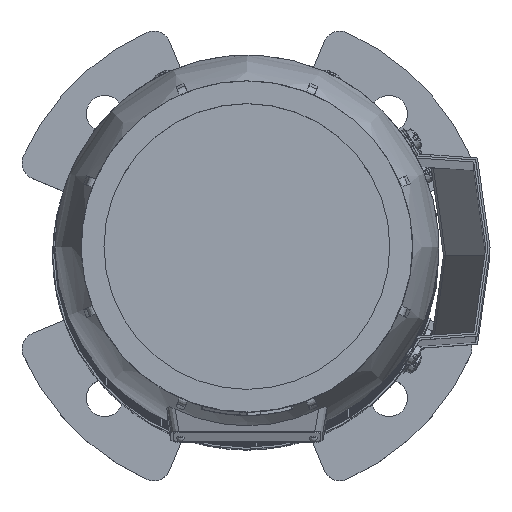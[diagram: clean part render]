
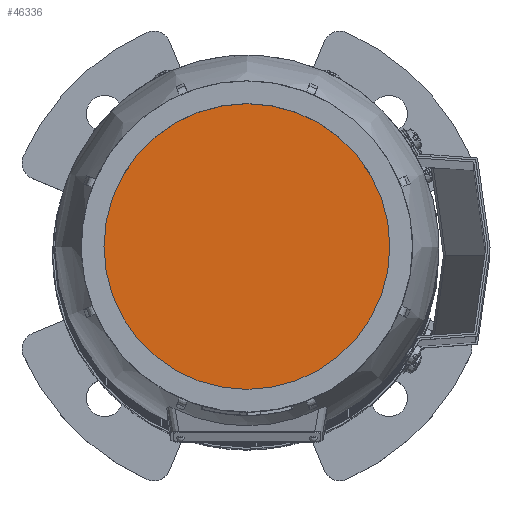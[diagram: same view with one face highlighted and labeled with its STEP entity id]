
A CAD part, top view. The second image highlights one B-rep face of the part: STEP entity #46336.
In plain terms, the highlighted planar face has unit normal (0, 0, 1) as drawn and (0, 1, 0) by its records, which use the part's own axes.
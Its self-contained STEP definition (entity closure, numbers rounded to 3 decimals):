
#9729=ORIENTED_EDGE('',*,*,#23675,.F.);
#23675=EDGE_CURVE('',#30648,#30648,#35355,.T.);
#30648=VERTEX_POINT('',#66967);
#35355=CIRCLE('',#48895,67.736);
#37477=EDGE_LOOP('',(#9729));
#40891=FACE_BOUND('',#37477,.T.);
#44323=PLANE('',#48894);
#46336=ADVANCED_FACE('',(#40891),#44323,.F.);
#48894=AXIS2_PLACEMENT_3D('',#66965,#53504,#53505);
#48895=AXIS2_PLACEMENT_3D('',#66966,#53506,#53507);
#53504=DIRECTION('',(0.,-1.,0.));
#53505=DIRECTION('',(0.,0.,-1.));
#53506=DIRECTION('',(0.,-1.,0.));
#53507=DIRECTION('',(0.,0.,-1.));
#66965=CARTESIAN_POINT('',(0.,154.,0.));
#66966=CARTESIAN_POINT('',(0.,154.,0.));
#66967=CARTESIAN_POINT('',(0.,154.,-67.736));
